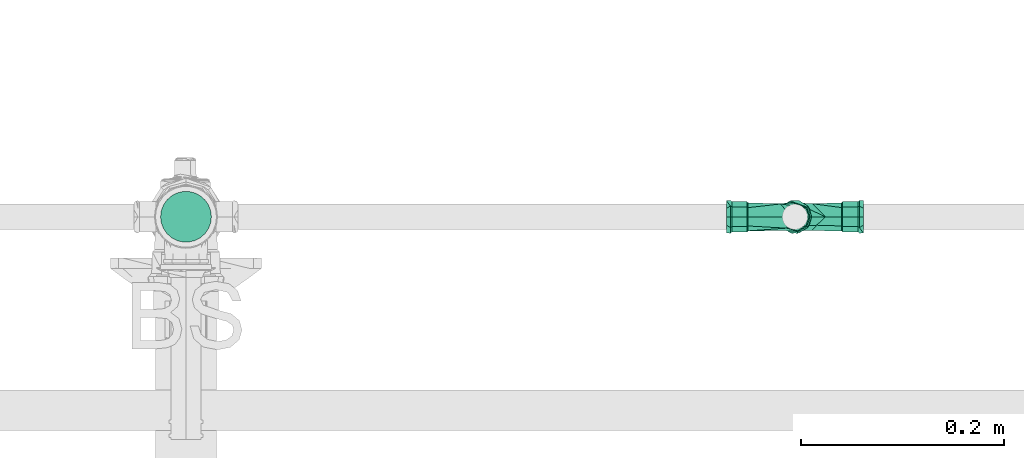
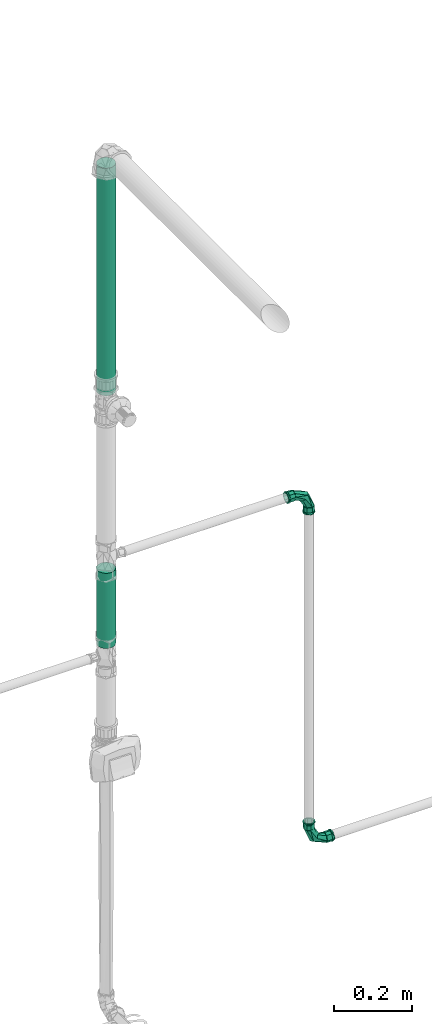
# One storey, part 292 of 589: 2 flow fittings, 2 flow segments.
"""IFC2X3 building model written with IfcOpenShell, lengths in millimetres."""

from ifc_helpers import new_model, entity, si_unit, converted_unit, derived_unit, direction, frame, origin, origin_2d_with_axis, place, context, subcontext, project, spatial, circle, extrude, faceted_brep, source, transform, mapped, material, type_object, type_shapes, element, save


model = new_model("IFC2X3")

# Units and contexts
model_context = context("Model", 3, precision=0.01, world=origin(), true_north=direction((6.123031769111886e-17, 1.0)))
body_context = subcontext(model_context, "Body", "Model", "MODEL_VIEW")
ifc_project = project(units=[si_unit("LENGTHUNIT", "METRE", prefix="MILLI"), si_unit("AREAUNIT", "SQUARE_METRE"), si_unit("VOLUMEUNIT", "CUBIC_METRE"), converted_unit("PLANEANGLEUNIT", "DEGREE", entity("IfcRatioMeasure", 0.017453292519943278), si_unit("PLANEANGLEUNIT", "RADIAN"), dimensions=[0, 0, 0, 0, 0, 0, 0]), si_unit("MASSUNIT", "GRAM", prefix="KILO"), derived_unit("MASSDENSITYUNIT", [(si_unit("MASSUNIT", "GRAM", prefix="KILO"), 1), (si_unit("LENGTHUNIT", "METRE"), -3)]), derived_unit("IONCONCENTRATIONUNIT", [(si_unit("MASSUNIT", "GRAM", prefix="KILO"), 1), (si_unit("LENGTHUNIT", "METRE"), -3)]), derived_unit("MOMENTOFINERTIAUNIT", [(si_unit("LENGTHUNIT", "METRE"), 4)]), si_unit("TIMEUNIT", "SECOND"), si_unit("FREQUENCYUNIT", "HERTZ"), si_unit("THERMODYNAMICTEMPERATUREUNIT", "DEGREE_CELSIUS"), derived_unit("THERMALTRANSMITTANCEUNIT", [(si_unit("MASSUNIT", "GRAM", prefix="KILO"), 1), (si_unit("THERMODYNAMICTEMPERATUREUNIT", "KELVIN"), -1), (si_unit("TIMEUNIT", "SECOND"), -3)]), derived_unit("THERMALCONDUCTANCEUNIT", [(si_unit("MASSUNIT", "GRAM", prefix="KILO"), 1), (si_unit("THERMODYNAMICTEMPERATUREUNIT", "KELVIN"), -1), (si_unit("TIMEUNIT", "SECOND"), -3), (si_unit("LENGTHUNIT", "METRE"), 1)]), derived_unit("VOLUMETRICFLOWRATEUNIT", [(si_unit("LENGTHUNIT", "METRE"), 3), (si_unit("TIMEUNIT", "SECOND"), -1)]), derived_unit("MASSFLOWRATEUNIT", [(si_unit("MASSUNIT", "GRAM", prefix="KILO"), 1), (si_unit("TIMEUNIT", "SECOND"), -1)]), derived_unit("ROTATIONALFREQUENCYUNIT", [(si_unit("TIMEUNIT", "SECOND"), -1)]), si_unit("ELECTRICCURRENTUNIT", "AMPERE"), si_unit("ELECTRICVOLTAGEUNIT", "VOLT"), si_unit("POWERUNIT", "WATT"), si_unit("FORCEUNIT", "NEWTON", prefix="KILO"), si_unit("ILLUMINANCEUNIT", "LUX"), si_unit("LUMINOUSFLUXUNIT", "LUMEN"), si_unit("LUMINOUSINTENSITYUNIT", "CANDELA"), derived_unit("USERDEFINED", [(si_unit("MASSUNIT", "GRAM", prefix="KILO"), -1), (si_unit("LENGTHUNIT", "METRE"), -2), (si_unit("TIMEUNIT", "SECOND"), 3), (si_unit("LUMINOUSFLUXUNIT", "LUMEN"), 1)]), derived_unit("USERDEFINED", [(si_unit("MASSUNIT", "GRAM", prefix="KILO"), 1), (si_unit("TIMEUNIT", "SECOND"), -3), (si_unit("LENGTHUNIT", "METRE"), 3), (si_unit("ELECTRICCURRENTUNIT", "AMPERE"), -2)]), derived_unit("SOUNDPOWERUNIT", [(si_unit("MASSUNIT", "GRAM", prefix="KILO"), 1), (si_unit("TIMEUNIT", "SECOND"), -3), (si_unit("LENGTHUNIT", "METRE"), 2)]), derived_unit("SOUNDPRESSUREUNIT", [(si_unit("MASSUNIT", "GRAM", prefix="KILO"), 1), (si_unit("LENGTHUNIT", "METRE"), -1), (si_unit("TIMEUNIT", "SECOND"), -2)]), derived_unit("LINEARVELOCITYUNIT", [(si_unit("LENGTHUNIT", "METRE"), 1), (si_unit("TIMEUNIT", "SECOND"), -1)]), si_unit("PRESSUREUNIT", "PASCAL"), derived_unit("USERDEFINED", [(si_unit("MASSUNIT", "GRAM", prefix="KILO"), 1), (si_unit("LENGTHUNIT", "METRE"), -2), (si_unit("TIMEUNIT", "SECOND"), -2)]), derived_unit("LINEARFORCEUNIT", [(si_unit("MASSUNIT", "GRAM", prefix="KILO"), 1), (si_unit("TIMEUNIT", "SECOND"), -2)]), derived_unit("PLANARFORCEUNIT", [(si_unit("MASSUNIT", "GRAM", prefix="KILO"), 1), (si_unit("LENGTHUNIT", "METRE"), -1), (si_unit("TIMEUNIT", "SECOND"), -2)]), derived_unit("SPECIFICHEATCAPACITYUNIT", [(si_unit("THERMODYNAMICTEMPERATUREUNIT", "KELVIN"), -1), (si_unit("LENGTHUNIT", "METRE"), 2), (si_unit("TIMEUNIT", "SECOND"), -2)]), derived_unit("HEATINGVALUEUNIT", [(si_unit("LENGTHUNIT", "METRE"), 2), (si_unit("TIMEUNIT", "SECOND"), -2)]), derived_unit("VAPORPERMEABILITYUNIT", [(si_unit("LENGTHUNIT", "METRE"), -1), (si_unit("TIMEUNIT", "SECOND"), 1)]), derived_unit("DYNAMICVISCOSITYUNIT", [(si_unit("MASSUNIT", "GRAM", prefix="KILO"), 1), (si_unit("TIMEUNIT", "SECOND"), -1), (si_unit("LENGTHUNIT", "METRE"), -1)]), derived_unit("THERMALEXPANSIONCOEFFICIENTUNIT", [(si_unit("THERMODYNAMICTEMPERATUREUNIT", "KELVIN"), -1)]), derived_unit("MODULUSOFELASTICITYUNIT", [(si_unit("MASSUNIT", "GRAM", prefix="KILO"), 1), (si_unit("LENGTHUNIT", "METRE"), -1), (si_unit("TIMEUNIT", "SECOND"), -2)]), derived_unit("ISOTHERMALMOISTURECAPACITYUNIT", [(si_unit("LENGTHUNIT", "METRE"), 3), (si_unit("MASSUNIT", "GRAM", prefix="KILO"), -1)]), derived_unit("MOISTUREDIFFUSIVITYUNIT", [(si_unit("TIMEUNIT", "SECOND"), -1), (si_unit("LENGTHUNIT", "METRE"), 2)])], contexts=[model_context])

# Site, building, storey
site_placement = place(None, origin())
site = spatial("IfcSite", under=ifc_project, at=site_placement, Name="Default", CompositionType="ELEMENT")
building_placement = place(site_placement, origin())
building = spatial("IfcBuilding", under=site, at=building_placement, CompositionType="ELEMENT")
storey_placement = place(building_placement, frame((0.0, 0.0, 100.0)))
storey = spatial("IfcBuildingStorey", under=building, at=storey_placement, Name="TÉRREO", CompositionType="ELEMENT", Elevation=100.0)

# Flow segments
pipe_segment_type = type_object("IfcPipeSegmentType", Name="Tipos de tubos:PVC Marrom Soldável", PredefinedType="NOTDEFINED")
flow_segment_1_placement = place(storey_placement, origin())
element("IfcFlowSegment", 1, at=flow_segment_1_placement, inside=storey, type_object=pipe_segment_type, Name="Tipos de tubos:PVC Marrom Soldável", ObjectType="Tipos de tubos:PVC Marrom Soldável", context=body_context, shape_type="SweptSolid", body=[
    extrude(circle(Radius=25.0, at=origin_2d_with_axis()), frame((6054.818506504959, 7535.924752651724, 1432.599999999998), z_axis=(0.0, 0.0, 1.0), x_axis=(-1.0, 0.0, 0.0)), (0.0, 0.0, 1.0), 234.80000000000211),
])
flow_segment_2_placement = place(storey_placement, origin())
element("IfcFlowSegment", 2, at=flow_segment_2_placement, inside=storey, type_object=pipe_segment_type, Name="Tipos de tubos:PVC Marrom Soldável", ObjectType="Tipos de tubos:PVC Marrom Soldável", context=body_context, shape_type="SweptSolid", body=[
    extrude(circle(Radius=25.0, at=origin_2d_with_axis()), frame((6054.818506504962, 7535.9247526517, 2221.5)), (0.0, 0.0, 1.0), 710.1500000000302),
])

# Flow fittings
ifc_material = material(Name="PVC Marrom")
pipe_fitting_type = type_object("IfcPipeFittingType", Name="PVC Marrom Soldável_Curva 45°_90°_Rodrigo MEP:Curva", PredefinedType="NOTDEFINED", material=ifc_material)
shared_shape = source(origin(), body_context, "Body", "Brep", [
    faceted_brep([(-67.38999999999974, -4.270514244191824, -15.937776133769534), (-67.38999999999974, -3.2352380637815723, -12.074072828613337), (-67.38999999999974, 3.235238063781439, -12.074072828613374), (-67.38999999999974, -14.289419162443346, -8.249999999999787), (-67.38999999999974, 4.270514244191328, -15.937776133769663), (-67.38999999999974, -10.825317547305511, -6.249999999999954), (-67.38999999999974, -12.5, 0.0), (-67.38999999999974, -16.5, 0.0), (-67.38999999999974, -10.825317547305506, 6.249999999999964), (-67.38999999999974, -14.28941916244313, 8.24999999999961), (-67.38999999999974, -3.2352380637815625, 12.074072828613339), (-67.38999999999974, -4.270514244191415, 15.937776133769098), (-67.38999999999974, 3.23523806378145, 12.07407282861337), (-67.38999999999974, 4.27051424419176, 15.937776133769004), (-67.38999999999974, 10.825317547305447, 6.250000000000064), (-67.38999999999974, 14.289419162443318, 8.249999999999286), (-67.38999999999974, 16.500000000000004, 0.0), (-67.38999999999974, 12.5, 0.0), (-67.38999999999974, 14.289419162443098, -8.250000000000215), (-67.38999999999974, 10.82531754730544, -6.250000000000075), (-63.389999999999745, 16.5, 0.0), (-63.39000000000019, 12.63914207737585, 10.606700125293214), (-63.3900000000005, 2.8633833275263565, 16.249647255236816), (-63.390000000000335, -12.641802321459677, 10.603529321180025), (-63.389999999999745, -16.5, 0.0), (-63.39000000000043, -4.889209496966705, 13.426588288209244), (-63.38999999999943, -12.641802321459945, -10.603529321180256), (-63.38999999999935, -2.8674593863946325, -16.248928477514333), (-63.389999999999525, 12.63914207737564, -10.606700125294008), (-63.38999999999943, 4.885841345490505, -13.42781430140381), (-61.989999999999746, -15.1, 0.0), (-61.99000000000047, -11.569164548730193, 9.703835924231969), (16.49999999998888, 63.38999999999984, 0.0), (12.64180232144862, 63.390000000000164, 10.603529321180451), (15.09999999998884, 61.990000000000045, 0.0), (-61.990000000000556, -4.474367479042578, 12.287362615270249), (-61.99000000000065, 2.620429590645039, 14.870889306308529), (-61.99000000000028, 11.56673002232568, 9.706737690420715), (-61.98999999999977, 15.099999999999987, 0.0), (-61.9899999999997, 11.566730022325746, -9.706737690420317), (-61.989999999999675, 4.47128511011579, -12.288484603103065), (-61.989999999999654, -2.624159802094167, -14.870231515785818), (-61.989999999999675, -11.569164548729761, -9.703835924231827), (12.641802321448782, 63.39000000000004, -10.603529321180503), (-46.98999999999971, 11.566730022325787, 9.706737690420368), (-46.98999999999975, 15.100000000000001, 0.0), (-46.98999999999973, 2.620429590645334, 14.870889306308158), (-46.98999999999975, -15.099999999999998, 0.0), (-46.98999999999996, -11.569164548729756, 9.703835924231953), (-46.99000000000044, -4.474367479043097, 12.287362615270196), (-46.9899999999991, -11.569164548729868, -9.703835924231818), (-46.9899999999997, -2.624159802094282, -14.870231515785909), (-46.99000000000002, 11.566730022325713, -9.706737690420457), (-46.989999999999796, 4.471285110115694, -12.28848460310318), (-45.88999999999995, -2.4364789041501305, -13.82697257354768), (-45.889999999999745, 14.040000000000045, 0.0), (-45.88999999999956, 10.757024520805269, -9.022639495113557), (-45.88999999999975, 4.160272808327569, -11.424806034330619), (-45.889999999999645, -10.754760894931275, -9.025337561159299), (-45.88999999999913, -14.040000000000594, 0.0), (-45.89000000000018, -10.754760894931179, 9.025337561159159), (-45.890000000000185, -4.15740681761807, 11.425849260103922), (-45.890000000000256, 10.75702452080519, 9.022639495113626), (-45.89000000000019, 2.4399472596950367, 13.826360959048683), (-17.45161529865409, 17.451615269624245, 12.843264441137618), (-14.117491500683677, 4.637376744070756, 12.606776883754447), (-3.5130906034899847, 3.5130906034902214, 0.0), (-2.439947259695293, 45.89000000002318, 13.826360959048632), (-10.7570245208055, 45.890000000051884, 9.022639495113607), (-29.96499999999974, 18.307090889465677, 0.0), (10.754760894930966, 45.89000000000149, 9.025337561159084), (4.1574068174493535, 45.89000000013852, 11.425849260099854), (14.040000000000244, 45.88999999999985, 0.0), (-14.039999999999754, 45.88999999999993, 0.0), (-16.50793867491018, 15.12119401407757, -13.635559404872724), (-10.757024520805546, 45.88999999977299, -9.022639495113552), (-4.160272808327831, 45.88999999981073, -11.424806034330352), (2.436478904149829, 45.88999999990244, -13.826972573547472), (-21.46430585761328, 21.464304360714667, -8.268649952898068), (-8.332046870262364, 6.525167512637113, -11.161166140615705), (10.754760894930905, 45.88999999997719, -9.025337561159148), (11.566730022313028, 46.9899999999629, -9.706737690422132), (15.099999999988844, 46.99000000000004, 0.0), (2.6204295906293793, 46.98999999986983, -14.870889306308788), (-11.56916454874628, 46.989999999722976, -9.703835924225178), (-4.47436747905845, 46.98999999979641, -12.287362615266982), (-15.100000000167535, 46.98999999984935, 0.0), (-11.569164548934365, 46.990000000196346, 9.703835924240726), (-2.624159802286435, 46.990000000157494, 14.87023151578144), (11.566730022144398, 46.99000000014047, 9.706737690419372), (4.471285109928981, 46.99000000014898, 12.288484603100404), (11.566730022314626, 61.99000000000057, 9.706737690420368), (4.471285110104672, 61.99000000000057, 12.288484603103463), (-2.624159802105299, 61.99000000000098, 14.870231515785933), (-11.569164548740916, 61.99000000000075, 9.703835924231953), (-15.100000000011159, 61.99000000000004, 0.0), (-11.569164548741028, 61.990000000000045, -9.703835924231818), (-4.474367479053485, 61.989999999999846, -12.287362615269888), (2.6204295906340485, 61.989999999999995, -14.870889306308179), (11.566730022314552, 61.99000000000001, -9.706737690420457), (-12.639142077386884, 63.39000000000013, 10.606700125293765), (-16.500000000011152, 63.38999999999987, 0.0), (-2.863383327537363, 63.390000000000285, 16.249647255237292), (4.889209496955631, 63.39000000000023, 13.426588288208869), (2.867459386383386, 63.390000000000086, -16.24892847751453), (-12.639142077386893, 63.39, -10.606700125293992), (-4.885841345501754, 63.39000000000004, -13.42781430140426), (-4.270514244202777, 67.38999999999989, -15.937776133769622), (-3.2352380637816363, 67.38999999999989, -12.074072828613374), (3.235238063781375, 67.38999999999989, -12.074072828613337), (-14.289419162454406, 67.38999999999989, -8.249999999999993), (4.2705142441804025, 67.38999999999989, -15.937776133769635), (-10.825317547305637, 67.38999999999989, -6.250000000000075), (-12.500000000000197, 67.38999999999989, 0.0), (-16.500000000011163, 67.38999999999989, 0.0), (-10.825317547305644, 67.38999999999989, 6.250000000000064), (-14.289419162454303, 67.38999999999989, 8.250000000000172), (-3.2352380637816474, 67.38999999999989, 12.07407282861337), (-4.270514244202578, 67.38999999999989, 15.937776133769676), (3.2352380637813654, 67.38999999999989, 12.074072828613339), (4.270514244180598, 67.38999999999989, 15.937776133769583), (10.825317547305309, 67.38999999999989, 6.249999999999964), (14.289419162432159, 67.38999999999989, 8.249999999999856), (16.499999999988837, 67.38999999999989, 0.0), (12.499999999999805, 67.38999999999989, 0.0), (14.289419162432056, 67.38999999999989, -8.250000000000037), (10.825317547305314, 67.38999999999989, -6.249999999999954), (-46.98999999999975, -10.825317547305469, -6.2500000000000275), (-46.98999999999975, -12.5, 0.0), (-46.98999999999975, -10.825317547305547, 6.249999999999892), (-46.98999999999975, -3.235238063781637, 12.074072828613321), (-46.98999999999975, 3.2352380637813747, 12.07407282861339), (-46.98999999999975, 10.825317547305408, 6.250000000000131), (-46.98999999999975, 12.5, 0.0), (-46.98999999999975, 10.825317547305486, -6.249999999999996), (-46.98999999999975, 3.2352380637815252, -12.07407282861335), (-46.98999999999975, -3.2352380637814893, -12.07407282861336), (3.2352380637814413, 46.99000000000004, 12.074072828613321), (-3.2352380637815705, 46.99000000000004, 12.07407282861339), (-3.235238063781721, 46.99000000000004, -12.07407282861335), (3.235238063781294, 46.99000000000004, -12.07407282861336), (-10.825317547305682, 46.990000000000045, -6.249999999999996), (-12.500000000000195, 46.990000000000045, 0.0), (-10.825317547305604, 46.990000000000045, 6.250000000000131), (10.825317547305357, 46.99000000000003, 6.249999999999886), (12.499999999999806, 46.99000000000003, 0.0), (10.825317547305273, 46.99000000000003, -6.2500000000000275)], [[[0, 1, 2]], [[1, 0, 3]], [[2, 4, 0]], [[3, 5, 1]], [[3, 6, 5]], [[6, 3, 7]], [[8, 6, 7]], [[8, 7, 9]], [[9, 10, 8]], [[9, 11, 10]], [[10, 11, 12]], [[13, 12, 11]], [[13, 14, 12]], [[14, 13, 15]], [[16, 14, 15]], [[17, 14, 16]], [[18, 17, 16]], [[18, 19, 17]], [[19, 18, 4]], [[4, 2, 19]], [[16, 15, 20]], [[15, 21, 20]], [[21, 15, 13]], [[21, 13, 22]], [[23, 11, 9]], [[24, 9, 7]], [[11, 23, 25, 22]], [[23, 9, 24]], [[11, 22, 13]], [[7, 3, 24]], [[3, 26, 24]], [[26, 3, 0]], [[26, 0, 27]], [[28, 4, 18]], [[20, 18, 16]], [[4, 28, 29, 27]], [[28, 18, 20]], [[4, 27, 0]], [[30, 31, 23, 24]], [[32, 33, 34]], [[31, 35, 36, 22, 25, 23]], [[37, 38, 20, 21]], [[37, 21, 22, 36]], [[38, 39, 28, 20]], [[39, 40, 41, 27, 29, 28]], [[42, 30, 24, 26]], [[43, 32, 34]], [[42, 26, 27, 41]], [[38, 37, 44, 45]], [[44, 37, 36, 46]], [[31, 30, 47, 48]], [[31, 48, 49, 46, 36, 35]], [[30, 42, 50, 47]], [[50, 42, 41, 51]], [[39, 38, 45, 52]], [[39, 52, 53, 51, 41, 40]], [[53, 54, 51]], [[55, 56, 45]], [[45, 56, 52]], [[52, 57, 53]], [[58, 59, 50]], [[52, 56, 57]], [[50, 51, 58]], [[47, 50, 59]], [[54, 53, 57]], [[58, 51, 54]], [[59, 60, 48]], [[48, 47, 59]], [[60, 49, 48]], [[60, 61, 49]], [[61, 46, 49]], [[62, 55, 45]], [[62, 44, 63]], [[44, 62, 45]], [[46, 61, 63]], [[63, 44, 46]], [[63, 64, 62]], [[63, 65, 64]], [[66, 65, 60]], [[67, 68, 64]], [[62, 69, 55]], [[69, 62, 64]], [[65, 63, 61, 60]], [[60, 59, 66]], [[65, 70, 71, 67]], [[66, 72, 70]], [[64, 65, 67]], [[68, 73, 69]], [[68, 69, 64]], [[70, 65, 66]], [[56, 55, 69]], [[74, 75, 76, 77]], [[78, 74, 56]], [[79, 54, 74]], [[58, 54, 79]], [[59, 58, 66]], [[69, 78, 56]], [[80, 79, 77]], [[66, 58, 79]], [[74, 77, 79]], [[66, 80, 72]], [[66, 79, 80]], [[74, 78, 75]], [[74, 54, 57, 56]], [[78, 73, 75]], [[73, 78, 69]], [[72, 80, 81, 82]], [[83, 81, 80, 77]], [[84, 85, 83, 77, 76, 75]], [[75, 73, 86, 84]], [[73, 68, 87, 86]], [[88, 87, 68, 67]], [[89, 90, 88, 67, 71, 70]], [[70, 72, 82, 89]], [[34, 91, 89, 82]], [[89, 91, 92, 93, 88, 90]], [[94, 95, 86, 87]], [[94, 87, 88, 93]], [[95, 96, 84, 86]], [[84, 96, 97, 98, 83, 85]], [[99, 34, 82, 81]], [[99, 81, 83, 98]], [[94, 93, 100]], [[95, 94, 101]], [[101, 94, 100]], [[93, 102, 100]], [[91, 34, 33]], [[91, 33, 103]], [[92, 102, 93]], [[102, 92, 103]], [[92, 91, 103]], [[34, 99, 43]], [[104, 43, 99]], [[105, 106, 97]], [[99, 98, 104]], [[96, 95, 101]], [[105, 97, 96]], [[105, 96, 101]], [[98, 106, 104]], [[106, 98, 97]], [[107, 108, 109]], [[108, 107, 110]], [[109, 111, 107]], [[110, 112, 108]], [[110, 113, 112]], [[113, 110, 114]], [[115, 113, 114]], [[115, 114, 116]], [[116, 117, 115]], [[116, 118, 117]], [[117, 118, 119]], [[120, 119, 118]], [[120, 121, 119]], [[121, 120, 122]], [[123, 121, 122]], [[124, 121, 123]], [[125, 124, 123]], [[125, 126, 124]], [[126, 125, 111]], [[111, 109, 126]], [[123, 122, 32]], [[122, 33, 32]], [[33, 122, 120]], [[120, 102, 103, 33]], [[100, 118, 116]], [[101, 116, 114]], [[118, 100, 102]], [[100, 116, 101]], [[118, 102, 120]], [[114, 110, 101]], [[110, 105, 101]], [[105, 110, 107]], [[107, 104, 106, 105]], [[43, 111, 125]], [[32, 125, 123]], [[111, 43, 104]], [[43, 125, 32]], [[111, 104, 107]], [[127, 128, 129, 130, 131, 132, 133, 134, 135, 136]], [[129, 128, 6, 8]], [[130, 129, 8, 10]], [[10, 12, 131, 130]], [[137, 138, 117, 119]], [[132, 131, 12, 14]], [[133, 132, 14, 17]], [[134, 133, 17, 19]], [[135, 134, 19, 2]], [[2, 1, 136, 135]], [[139, 140, 109, 108]], [[127, 136, 1, 5]], [[128, 127, 5, 6]], [[139, 141, 142, 143, 138, 137, 144, 145, 146, 140]], [[121, 124, 145, 144]], [[119, 121, 144, 137]], [[115, 117, 138, 143]], [[113, 115, 143, 142]], [[112, 113, 142, 141]], [[108, 112, 141, 139]], [[126, 109, 140, 146]], [[124, 126, 146, 145]]]),
])
type_shapes(pipe_fitting_type, [shared_shape])
for number, where, z_axis, x_axis in (
    (3, (6653.644721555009, 7535.92475265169, 1700.0), (0.0, 1.0, 0.0), (1.0, 0.0, 0.0)),
    (4, (6653.644721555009, 7535.92475265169, 600.0), (0.0, 1.0, 0.0), (-1.0, 0.0, 0.0)),
):
    element("IfcFlowFitting", number, at=place(storey_placement, frame(where, z_axis=z_axis, x_axis=x_axis)), inside=storey, type_object=pipe_fitting_type, material=ifc_material, Name="PVC Marrom Soldável_Curva 45°_90°_Rodrigo MEP:Curva", ObjectType="PVC Marrom Soldável_Curva 45°_90°_Rodrigo MEP:Curva", context=body_context, shape_type="MappedRepresentation", body=[
        mapped(shared_shape, transform((0.0, 0.0, 0.0), scale=1.0)),
    ])

save(model, "model.ifc")
